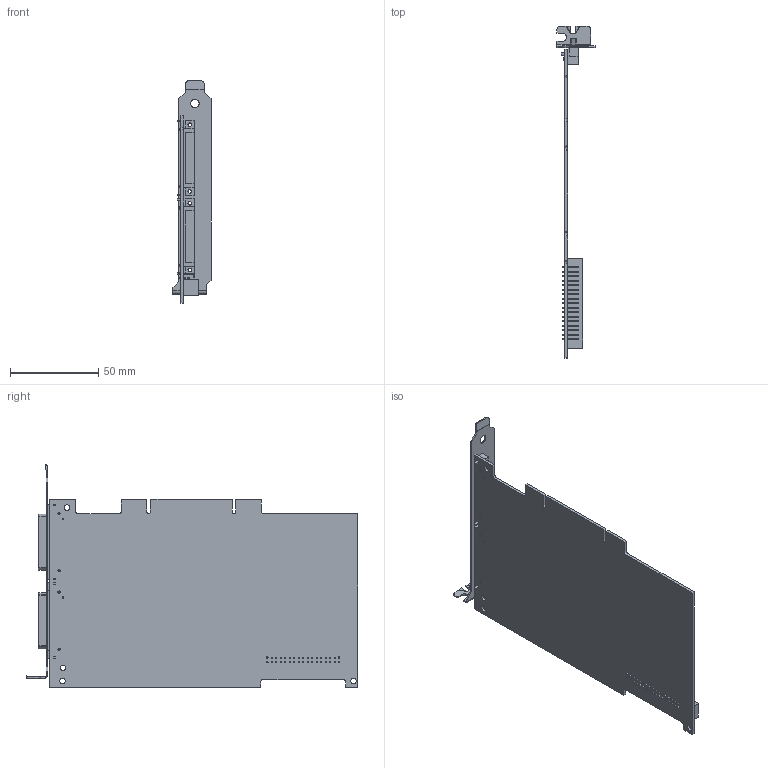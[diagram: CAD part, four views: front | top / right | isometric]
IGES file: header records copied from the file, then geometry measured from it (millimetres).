
Start section:  PTC IGES file: cu_pci-7830r.igs
Global section: file name: cu_pci-7830r.igs; native system: Pro/ENGINEER by Parametric Technology Corporation; preprocessor: 2010230; author: dkendric; organization: Unknown; date: 20110815.161323; units: inch
Bounding box: 21.59 x 187.77 x 126.06 mm (x, y, z)
Surface area: 46306 mm2 (no closed solid volume)
Topology: 0 solids, 0 shells, 915 faces, 5019 edges, 5019 vertices
Faces by surface type: bspline 729, revolution 186
